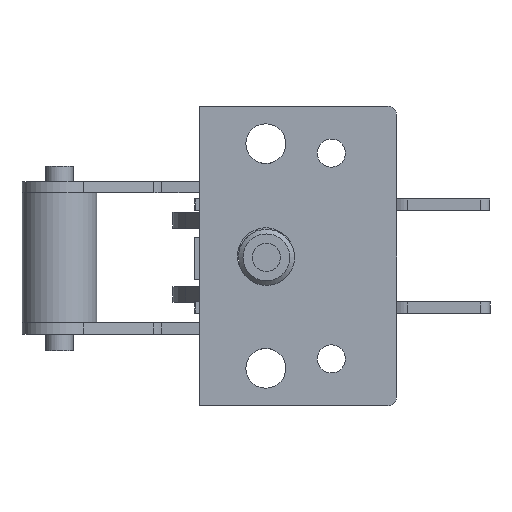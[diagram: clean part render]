
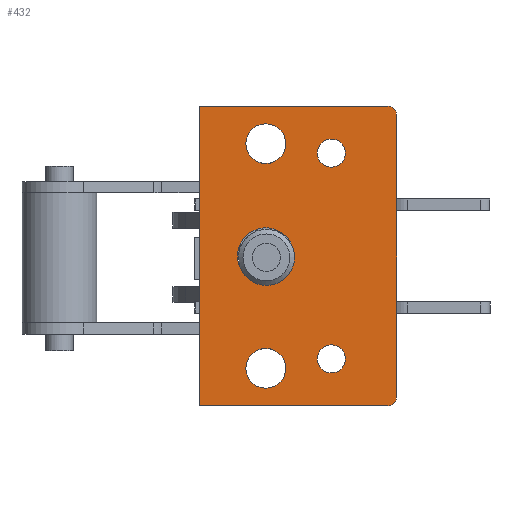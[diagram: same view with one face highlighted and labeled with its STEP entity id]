
A CAD part, left-side view. The second image highlights one B-rep face of the part: STEP entity #432.
In plain terms, the highlighted planar face has unit normal (-1, 0, 0).
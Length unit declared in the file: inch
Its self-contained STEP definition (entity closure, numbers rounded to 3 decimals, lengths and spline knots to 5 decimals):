
#320=CARTESIAN_POINT('',(17.50501,10.38946,0.92528));
#321=DIRECTION('',(1.0,0.0,0.0));
#322=DIRECTION('',(0.0,0.0,-1.0));
#323=AXIS2_PLACEMENT_3D('',#320,#321,#322);
#324=PLANE('',#323);
#325=CARTESIAN_POINT('',(17.50501,11.04218,-0.07472));
#326=VERTEX_POINT('',#325);
#327=CARTESIAN_POINT('',(17.50501,11.04218,1.92528));
#328=VERTEX_POINT('',#327);
#329=CARTESIAN_POINT('',(17.50501,11.04218,-0.07472));
#330=DIRECTION('',(0.0,0.0,1.0));
#331=VECTOR('',#330,2.);
#332=LINE('',#329,#331);
#333=EDGE_CURVE('',#326,#328,#332,.T.);
#334=ORIENTED_EDGE('',*,*,#333,.F.);
#335=CARTESIAN_POINT('',(17.50501,9.78411,-0.07472));
#336=VERTEX_POINT('',#335);
#337=CARTESIAN_POINT('',(17.50501,9.78411,-0.07472));
#338=DIRECTION('',(0.0,1.0,0.0));
#339=VECTOR('',#338,1.25807);
#340=LINE('',#337,#339);
#341=EDGE_CURVE('',#336,#326,#340,.T.);
#342=ORIENTED_EDGE('',*,*,#341,.F.);
#343=CARTESIAN_POINT('',(17.50501,9.72161,-0.01222));
#344=VERTEX_POINT('',#343);
#345=CARTESIAN_POINT('',(17.50501,9.78411,-0.01222));
#346=DIRECTION('',(1.0,0.,0.));
#347=DIRECTION('',(0.,-0.707,-0.707));
#348=AXIS2_PLACEMENT_3D('',#345,#346,#347);
#349=CIRCLE('',#348,0.0625);
#350=EDGE_CURVE('',#344,#336,#349,.T.);
#351=ORIENTED_EDGE('',*,*,#350,.F.);
#352=CARTESIAN_POINT('',(17.50501,9.72161,1.86278));
#353=VERTEX_POINT('',#352);
#354=CARTESIAN_POINT('',(17.50501,9.72161,1.86278));
#355=DIRECTION('',(0.0,0.0,-1.0));
#356=VECTOR('',#355,1.875);
#357=LINE('',#354,#356);
#358=EDGE_CURVE('',#353,#344,#357,.T.);
#359=ORIENTED_EDGE('',*,*,#358,.F.);
#360=CARTESIAN_POINT('',(17.50501,9.78411,1.92528));
#361=VERTEX_POINT('',#360);
#362=CARTESIAN_POINT('',(17.50501,9.78411,1.86278));
#363=DIRECTION('',(1.0,0.,0.));
#364=DIRECTION('',(0.,-0.707,0.707));
#365=AXIS2_PLACEMENT_3D('',#362,#363,#364);
#366=CIRCLE('',#365,0.0625);
#367=EDGE_CURVE('',#361,#353,#366,.T.);
#368=ORIENTED_EDGE('',*,*,#367,.F.);
#369=CARTESIAN_POINT('',(17.50501,11.04218,1.92528));
#370=DIRECTION('',(0.0,-1.0,0.0));
#371=VECTOR('',#370,1.25807);
#372=LINE('',#369,#371);
#373=EDGE_CURVE('',#328,#361,#372,.T.);
#374=ORIENTED_EDGE('',*,*,#373,.F.);
#375=EDGE_LOOP('',(#334,#342,#351,#359,#368,#374));
#376=FACE_OUTER_BOUND('',#375,.T.);
#377=CARTESIAN_POINT('',(17.50501,10.15861,1.70678));
#378=VERTEX_POINT('',#377);
#379=CARTESIAN_POINT('',(17.50501,10.15861,1.61278));
#380=DIRECTION('',(-1.0,0.0,0.0));
#381=DIRECTION('',(0.0,-1.0,0.0));
#382=AXIS2_PLACEMENT_3D('',#379,#380,#381);
#383=CIRCLE('',#382,0.094);
#384=EDGE_CURVE('',#378,#378,#383,.T.);
#385=ORIENTED_EDGE('',*,*,#384,.F.);
#386=EDGE_LOOP('',(#385));
#387=FACE_BOUND('',#386,.T.);
#388=CARTESIAN_POINT('',(17.50501,10.59661,1.80828));
#389=VERTEX_POINT('',#388);
#390=CARTESIAN_POINT('',(17.50501,10.59661,1.67528));
#391=DIRECTION('',(-1.0,0.0,0.0));
#392=DIRECTION('',(0.0,-1.0,0.0));
#393=AXIS2_PLACEMENT_3D('',#390,#391,#392);
#394=CIRCLE('',#393,0.133);
#395=EDGE_CURVE('',#389,#389,#394,.T.);
#396=ORIENTED_EDGE('',*,*,#395,.F.);
#397=EDGE_LOOP('',(#396));
#398=FACE_BOUND('',#397,.T.);
#399=CARTESIAN_POINT('',(17.50501,10.59661,1.11378));
#400=VERTEX_POINT('',#399);
#401=CARTESIAN_POINT('',(17.50501,10.59661,0.92528));
#402=DIRECTION('',(-1.0,0.0,0.0));
#403=DIRECTION('',(0.0,-1.0,0.0));
#404=AXIS2_PLACEMENT_3D('',#401,#402,#403);
#405=CIRCLE('',#404,0.1885);
#406=EDGE_CURVE('',#400,#400,#405,.T.);
#407=ORIENTED_EDGE('',*,*,#406,.F.);
#408=EDGE_LOOP('',(#407));
#409=FACE_BOUND('',#408,.T.);
#410=CARTESIAN_POINT('',(17.50501,10.59661,0.30828));
#411=VERTEX_POINT('',#410);
#412=CARTESIAN_POINT('',(17.50501,10.59661,0.17528));
#413=DIRECTION('',(-1.0,0.0,0.0));
#414=DIRECTION('',(0.0,-1.0,0.0));
#415=AXIS2_PLACEMENT_3D('',#412,#413,#414);
#416=CIRCLE('',#415,0.133);
#417=EDGE_CURVE('',#411,#411,#416,.T.);
#418=ORIENTED_EDGE('',*,*,#417,.F.);
#419=EDGE_LOOP('',(#418));
#420=FACE_BOUND('',#419,.T.);
#421=CARTESIAN_POINT('',(17.50501,10.15861,0.33153));
#422=VERTEX_POINT('',#421);
#423=CARTESIAN_POINT('',(17.50501,10.15861,0.23778));
#424=DIRECTION('',(-1.0,0.0,0.0));
#425=DIRECTION('',(0.0,-1.0,0.0));
#426=AXIS2_PLACEMENT_3D('',#423,#424,#425);
#427=CIRCLE('',#426,0.09375);
#428=EDGE_CURVE('',#422,#422,#427,.T.);
#429=ORIENTED_EDGE('',*,*,#428,.F.);
#430=EDGE_LOOP('',(#429));
#431=FACE_BOUND('',#430,.T.);
#432=ADVANCED_FACE('',(#376,#387,#398,#409,#420,#431),#324,.F.);
